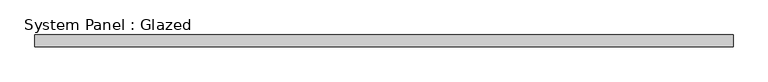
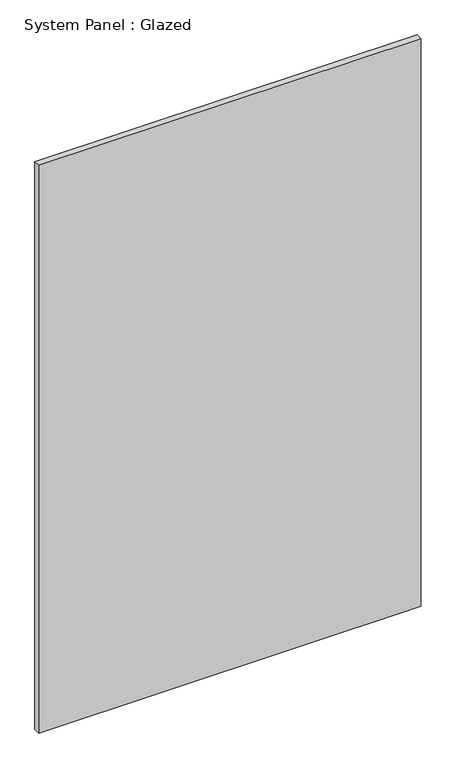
"""IFC4 building model written with IfcOpenShell, lengths in millimetres: plate geometry, System Panel : Glazed."""

from ifc_helpers import new_model, si_unit, origin, origin_with_axes, place, context, project, spatial, polyline, outline, extrude, source, transform, mapped, element, save


def system_panel_glazed_68cc8840(model_context):
    return source(origin(), model_context, "Body", "SweptSolid", [
        extrude(outline(polyline([(741.40625, 24.5), (-741.40625, 24.5), (-741.40625, 49.5), (741.40625, 49.5), (741.40625, 24.5)])), origin_with_axes(), (0.0, 0.0, 1.0), 2325.0),
    ])


if __name__ == "__main__":
    model = new_model("IFC4")
    model_context = context("Model", 3, world=origin())
    ifc_project = project(units=[si_unit("LENGTHUNIT", "METRE", prefix="MILLI")], contexts=[model_context])
    site = spatial("IfcSite", under=ifc_project)
    building = spatial("IfcBuilding", under=site)
    placement = place(None, origin())
    system_panel_glazed_shape = system_panel_glazed_68cc8840(model_context)
    element("IfcPlate", 1, ObjectType="System Panel : Glazed", at=placement, inside=building, context=model_context, shape_type="MappedRepresentation", body=[
        mapped(system_panel_glazed_shape, transform((0.0, 0.0, 0.0), x_axis=(1.0, 0.0, 0.0), y_axis=(0.0, 1.0, 0.0), z_axis=(0.0, 0.0, 1.0))),
    ])
    save(model, "model.ifc")
